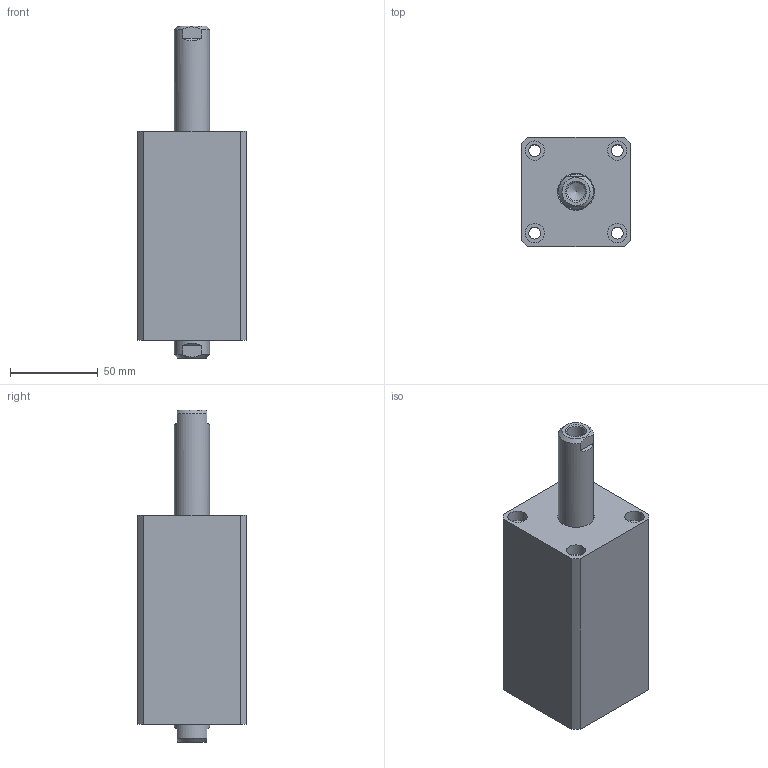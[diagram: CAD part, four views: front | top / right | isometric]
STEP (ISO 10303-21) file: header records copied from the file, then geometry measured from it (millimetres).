
FILE_DESCRIPTION(/* description */ (''),/* implementation_level */ '2;1');
FILE_NAME(/* name */ 'CHTB-SW32-50N.stp',/* time_stamp */ '2022-04-29T17:18:08+08:00',/* author */ (''),/* organization */ (''),/* preprocessor_version */ 'ST-DEVELOPER v16.7',/* originating_system */ 'SIEMENS PLM Software NX 12.0',/* authorisation */ '');
FILE_SCHEMA (('AUTOMOTIVE_DESIGN { 1 0 10303 214 3 1 1 1 }'));
Length unit declared in the file: millimetre
Products named in the file (1): CHTB-SW32-50N
Bounding box: 62 x 62 x 189 mm (x, y, z)
Volume: 420721.1 mm3; surface area: 84301.5 mm2
Topology: 3 solids, 3 shells, 438 faces, 1170 edges, 786 vertices
Faces by surface type: plane 267, extrusion 81, cylinder 52, cone 13, bspline 13, torus 12
Full cylindrical faces by diameter (mm): 3 x2, 4 x2, 6.8 x4, 10.5 x2, 10.7 x2, 11 x8, 20 x4, 24.5 x1, 26 x2, 28 x1, 32 x5, 38 x8, 46 x1
Entity records: 21569 total; most frequent: CARTESIAN_POINT 9331, ORIENTED_EDGE 2164, DIRECTION 1690, EDGE_CURVE 1082, VECTOR 802, VERTEX_POINT 770, LINE 721, EDGE_LOOP 554
